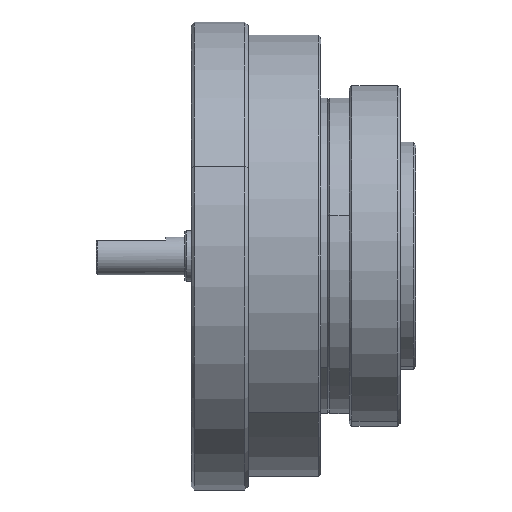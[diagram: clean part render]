
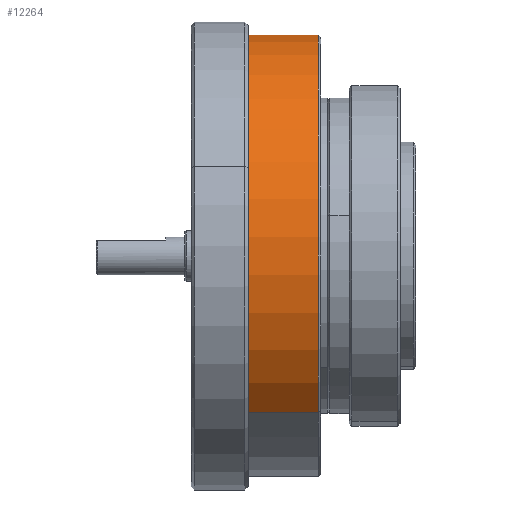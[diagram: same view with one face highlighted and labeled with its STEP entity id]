
A CAD part, front view. The second image highlights one B-rep face of the part: STEP entity #12264.
In plain terms, the highlighted cylindrical face has radius 35 mm (diameter 70 mm), a partial arc.
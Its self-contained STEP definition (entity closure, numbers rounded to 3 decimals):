
#16 = EDGE_CURVE ( 'NONE', #1950, #2110, #11986, .T. ) ;
#562 = CARTESIAN_POINT ( 'NONE',  ( -82.414, 0., 0. ) ) ;
#740 = VECTOR ( 'NONE', #9178, 1000. ) ;
#1030 = ORIENTED_EDGE ( 'NONE', *, *, #2176, .T. ) ;
#1326 = VERTEX_POINT ( 'NONE', #4881 ) ;
#1950 = VERTEX_POINT ( 'NONE', #8489 ) ;
#1958 = DIRECTION ( 'NONE',  ( 0., -0.707, -0.707 ) ) ;
#2110 = VERTEX_POINT ( 'NONE', #17703 ) ;
#2147 = DIRECTION ( 'NONE',  ( -1., 0., 0. ) ) ;
#2176 = EDGE_CURVE ( 'NONE', #8472, #1950, #7267, .T. ) ;
#2846 = DIRECTION ( 'NONE',  ( 1., 0., 0. ) ) ;
#3138 = EDGE_CURVE ( 'NONE', #2110, #1326, #10774, .T. ) ;
#4881 = CARTESIAN_POINT ( 'NONE',  ( -25.7, -24.749, -24.749 ) ) ;
#5994 = CARTESIAN_POINT ( 'NONE',  ( -82.414, -24.749, -24.749 ) ) ;
#6327 = CARTESIAN_POINT ( 'NONE',  ( -12.4, -24.749, -24.749 ) ) ;
#6817 = AXIS2_PLACEMENT_3D ( 'NONE', #7085, #2846, #16868 ) ;
#7085 = CARTESIAN_POINT ( 'NONE',  ( -25.7, 0., 0. ) ) ;
#7267 = CIRCLE ( 'NONE', #9912, 35. ) ;
#8472 = VERTEX_POINT ( 'NONE', #6327 ) ;
#8489 = CARTESIAN_POINT ( 'NONE',  ( -12.4, 24.749, 24.749 ) ) ;
#9044 = LINE ( 'NONE', #5994, #11945 ) ;
#9178 = DIRECTION ( 'NONE',  ( -1., 0., 0. ) ) ;
#9180 = CYLINDRICAL_SURFACE ( 'NONE', #11429, 35. ) ;
#9625 = FACE_OUTER_BOUND ( 'NONE', #9913, .T. ) ;
#9912 = AXIS2_PLACEMENT_3D ( 'NONE', #12018, #2147, #10585 ) ;
#9913 = EDGE_LOOP ( 'NONE', ( #1030, #16090, #14493, #16059 ) ) ;
#10585 = DIRECTION ( 'NONE',  ( 0., -0.707, -0.707 ) ) ;
#10730 = CARTESIAN_POINT ( 'NONE',  ( -82.414, 24.749, 24.749 ) ) ;
#10774 = CIRCLE ( 'NONE', #6817, 35. ) ;
#11429 = AXIS2_PLACEMENT_3D ( 'NONE', #562, #15989, #1958 ) ;
#11945 = VECTOR ( 'NONE', #13098, 1000. ) ;
#11986 = LINE ( 'NONE', #10730, #740 ) ;
#12018 = CARTESIAN_POINT ( 'NONE',  ( -12.4, 0., 0. ) ) ;
#12264 = ADVANCED_FACE ( 'NONE', ( #9625 ), #9180, .T. ) ;
#13098 = DIRECTION ( 'NONE',  ( -1., 0., 0. ) ) ;
#14493 = ORIENTED_EDGE ( 'NONE', *, *, #3138, .T. ) ;
#15919 = EDGE_CURVE ( 'NONE', #8472, #1326, #9044, .T. ) ;
#15989 = DIRECTION ( 'NONE',  ( -1., 0., 0. ) ) ;
#16059 = ORIENTED_EDGE ( 'NONE', *, *, #15919, .F. ) ;
#16090 = ORIENTED_EDGE ( 'NONE', *, *, #16, .T. ) ;
#16868 = DIRECTION ( 'NONE',  ( 0., 0.707, 0.707 ) ) ;
#17703 = CARTESIAN_POINT ( 'NONE',  ( -25.7, 24.749, 24.749 ) ) ;
